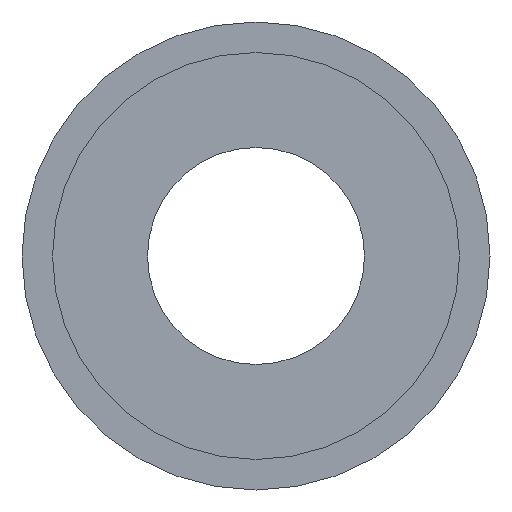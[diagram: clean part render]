
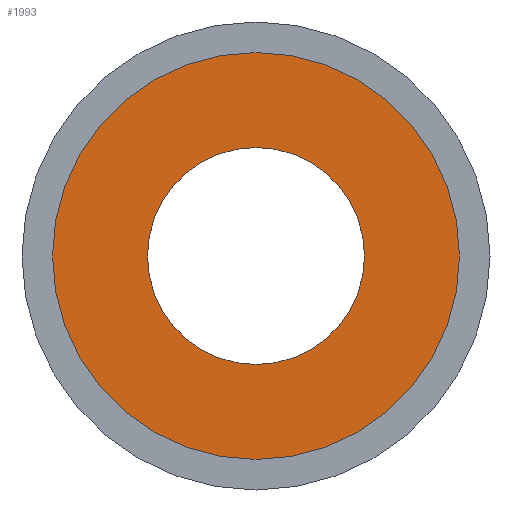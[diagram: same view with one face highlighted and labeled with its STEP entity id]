
A CAD part, front view. The second image highlights one B-rep face of the part: STEP entity #1993.
In plain terms, the highlighted planar face has unit normal (0, -1, 0).
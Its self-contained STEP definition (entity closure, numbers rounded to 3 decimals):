
#26 = EDGE_CURVE ( 'NONE', #279, #932, #2635, .T. ) ;
#150 = DIRECTION ( 'NONE',  ( 0., 0., -1. ) ) ;
#195 = CARTESIAN_POINT ( 'NONE',  ( 0., -14., 0. ) ) ;
#279 = VERTEX_POINT ( 'NONE', #3386 ) ;
#284 = CARTESIAN_POINT ( 'NONE',  ( 0., -14., 0. ) ) ;
#305 = FACE_BOUND ( 'NONE', #2538, .T. ) ;
#595 = ORIENTED_EDGE ( 'NONE', *, *, #26, .F. ) ;
#607 = CARTESIAN_POINT ( 'NONE',  ( 0., -14., 16. ) ) ;
#739 = AXIS2_PLACEMENT_3D ( 'NONE', #195, #753, #1040 ) ;
#753 = DIRECTION ( 'NONE',  ( 0., -1., 0. ) ) ;
#814 = CARTESIAN_POINT ( 'NONE',  ( 0., -14., 16. ) ) ;
#816 = DIRECTION ( 'NONE',  ( 0., -1., 0. ) ) ;
#932 = VERTEX_POINT ( 'NONE', #607 ) ;
#950 = AXIS2_PLACEMENT_3D ( 'NONE', #2931, #3536, #150 ) ;
#1040 = DIRECTION ( 'NONE',  ( 0., 0., -1. ) ) ;
#1044 = ORIENTED_EDGE ( 'NONE', *, *, #3478, .T. ) ;
#1077 = DIRECTION ( 'NONE',  ( 0., 1., 0. ) ) ;
#1186 = AXIS2_PLACEMENT_3D ( 'NONE', #3451, #1455, #1767 ) ;
#1331 = EDGE_CURVE ( 'NONE', #2487, #3614, #2621, .T. ) ;
#1455 = DIRECTION ( 'NONE',  ( 0., -1., 0. ) ) ;
#1540 = CARTESIAN_POINT ( 'NONE',  ( 0., -14., -30. ) ) ;
#1656 = ORIENTED_EDGE ( 'NONE', *, *, #1331, .T. ) ;
#1716 = EDGE_CURVE ( 'NONE', #932, #279, #3320, .T. ) ;
#1767 = DIRECTION ( 'NONE',  ( 0., 0., -1. ) ) ;
#1909 = AXIS2_PLACEMENT_3D ( 'NONE', #814, #1077, #2814 ) ;
#1946 = PLANE ( 'NONE',  #1909 ) ;
#1968 = DIRECTION ( 'NONE',  ( 0., 0., -1. ) ) ;
#1993 = ADVANCED_FACE ( 'NONE', ( #305, #3667 ), #1946, .F. ) ;
#2002 = EDGE_LOOP ( 'NONE', ( #1044, #1656 ) ) ;
#2084 = ORIENTED_EDGE ( 'NONE', *, *, #1716, .F. ) ;
#2487 = VERTEX_POINT ( 'NONE', #3562 ) ;
#2538 = EDGE_LOOP ( 'NONE', ( #595, #2084 ) ) ;
#2621 = CIRCLE ( 'NONE', #3629, 30. ) ;
#2635 = CIRCLE ( 'NONE', #950, 16. ) ;
#2814 = DIRECTION ( 'NONE',  ( 0., 0., 1. ) ) ;
#2931 = CARTESIAN_POINT ( 'NONE',  ( 0., -14., 0. ) ) ;
#3186 = CIRCLE ( 'NONE', #1186, 30. ) ;
#3320 = CIRCLE ( 'NONE', #739, 16. ) ;
#3386 = CARTESIAN_POINT ( 'NONE',  ( 0., -14., -16. ) ) ;
#3451 = CARTESIAN_POINT ( 'NONE',  ( 0., -14., 0. ) ) ;
#3478 = EDGE_CURVE ( 'NONE', #3614, #2487, #3186, .T. ) ;
#3536 = DIRECTION ( 'NONE',  ( 0., -1., 0. ) ) ;
#3562 = CARTESIAN_POINT ( 'NONE',  ( 0., -14., 30. ) ) ;
#3614 = VERTEX_POINT ( 'NONE', #1540 ) ;
#3629 = AXIS2_PLACEMENT_3D ( 'NONE', #284, #816, #1968 ) ;
#3667 = FACE_OUTER_BOUND ( 'NONE', #2002, .T. ) ;
